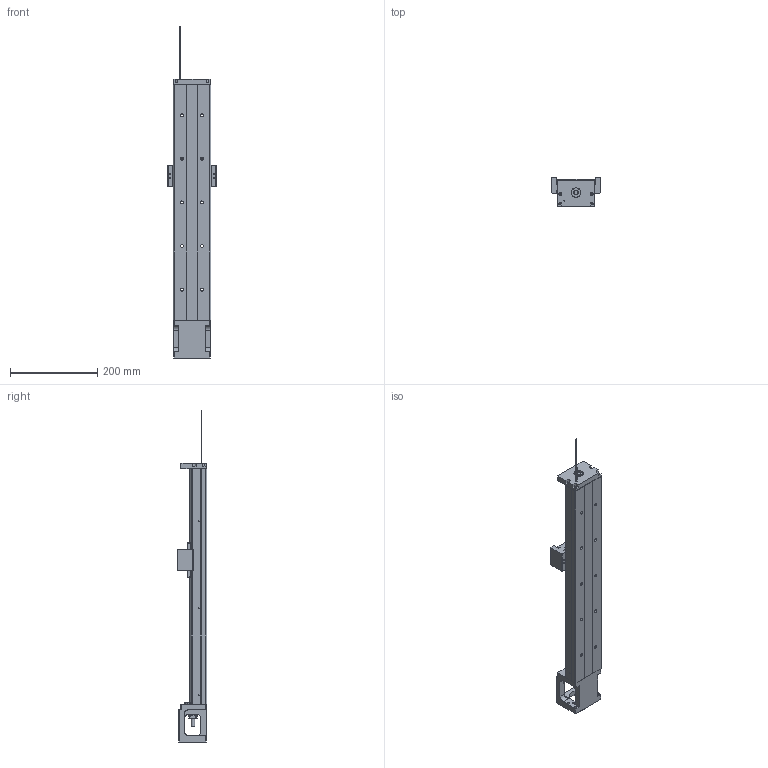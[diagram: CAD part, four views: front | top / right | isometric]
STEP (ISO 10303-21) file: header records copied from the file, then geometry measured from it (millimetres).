
FILE_DESCRIPTION(/* description */ (''),/* implementation_level */ '2;1');
FILE_NAME(/* name */ '46S-540.stp',/* time_stamp */ '2016-12-20T14:06:26+08:00',/* author */ (''),/* organization */ (''),/* preprocessor_version */ 'ST-DEVELOPER v11',/* originating_system */ 'SIEMENS UGS NX 6.0',/* authorisation */ '');
FILE_SCHEMA (('AUTOMOTIVE_DESIGN { 1 0 10303 214 1 1 1 1 }'));
Length unit declared in the file: millimetre
Products named in the file (1): model4
Bounding box: 112 x 68 x 761.89 mm (x, y, z)
Volume: 1406712.3 mm3; surface area: 307172.2 mm2
Topology: 6 solids, 17 shells, 667 faces, 1742 edges, 1152 vertices
Faces by surface type: plane 323, cylinder 234, cone 55, bspline 47, torus 8
Full cylindrical faces by diameter (mm): 2 x2, 2.11 x2, 2.15 x6, 2.42 x6, 2.5 x4, 3 x4, 3.2 x4, 3.3 x12, 3.4 x8, 4 x2, 4.2 x4, 4.5 x8, 5 x8, 6 x8, 6.35 x2, 6.6 x10, 6.7 x2, 8 x1, 8.7 x4, 9.6 x1, 10 x3, 11 x10, 12 x1, 14.95 x2, 15 x1, 16 x2, 22 x3, 27.5 x1, 44 x1, 50 x1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
Entity records: 30546 total; most frequent: CARTESIAN_POINT 12907, ORIENTED_EDGE 3004, DIRECTION 2901, EDGE_CURVE 1502, VERTEX_POINT 1082, AXIS2_PLACEMENT_3D 1073, EDGE_LOOP 938, LINE 755
